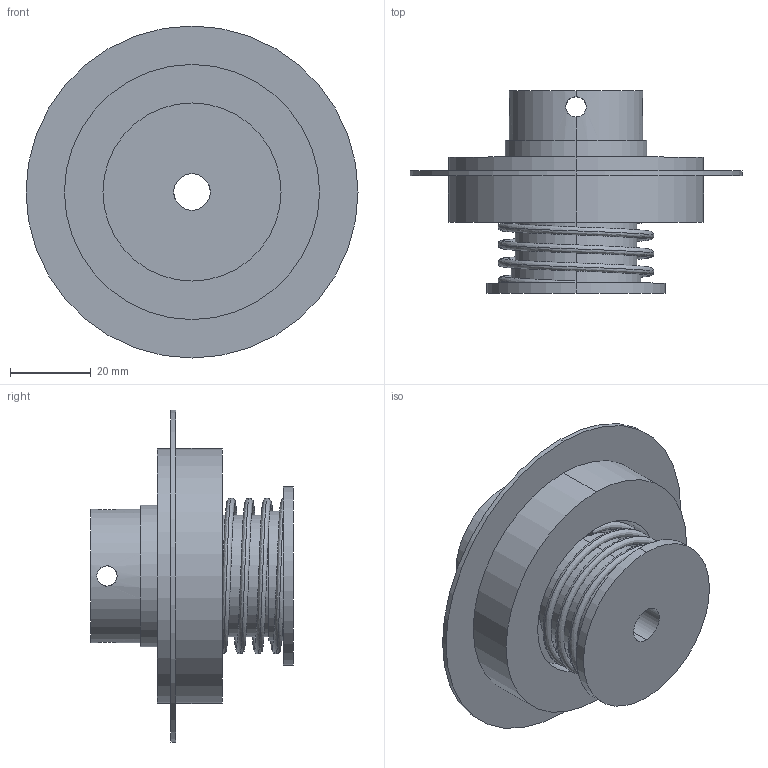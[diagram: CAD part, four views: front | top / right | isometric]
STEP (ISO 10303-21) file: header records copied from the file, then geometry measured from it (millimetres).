
FILE_DESCRIPTION (( 'STEP AP203' ), '1' );
FILE_NAME ('ST5F-030C.STEP', '2009-09-30T17:45:02', ( 'USER' ), ( 'HOME' ), 'SwSTEP 2.0', 'SolidWorks 2007', '' );
FILE_SCHEMA (( 'CONFIG_CONTROL_DESIGN' ));
Length unit declared in the file: millimetre
Products named in the file (1): ST5F-030C
Bounding box: 82 x 50 x 82 mm (x, y, z)
Volume: 75191.7 mm3; surface area: 25473.4 mm2
Topology: 2 solids, 2 shells, 61 faces, 148 edges, 92 vertices
Faces by surface type: cylinder 38, plane 13, cone 8, bspline 2
Entity records: 3055 total; most frequent: CARTESIAN_POINT 1570, DIRECTION 298, ORIENTED_EDGE 280, EDGE_CURVE 140, AXIS2_PLACEMENT_3D 124, VERTEX_POINT 92, EDGE_LOOP 80, CIRCLE 64
